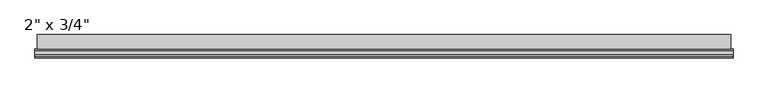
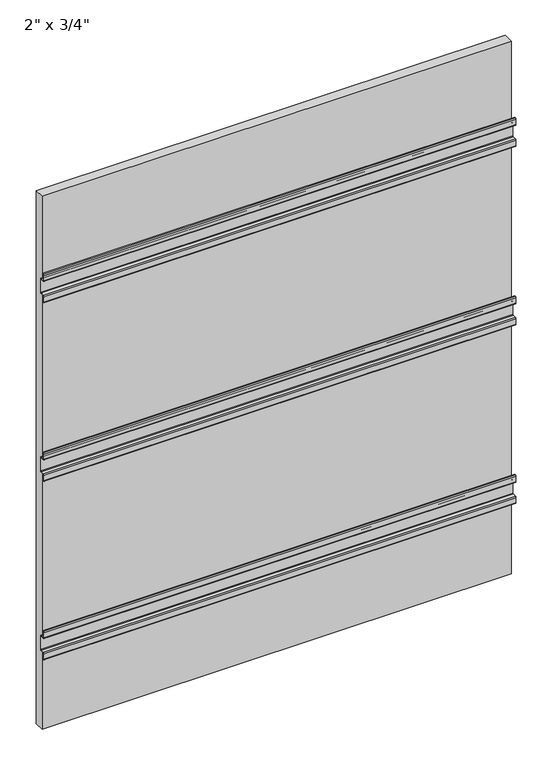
"""IFC4 building model written with IfcOpenShell, lengths in millimetres: plate geometry."""

from ifc_helpers import new_model, si_unit, point, frame, frame_2d, origin, place, context, project, spatial, polyline, circle_curve, trimmed, segment, composite_curve, outline, extrude, source, transform, mapped, element, save


def plate_bb21e225(model_context):
    return source(origin(), model_context, "Body", "SweptSolid", [
        extrude(outline(composite_curve([segment(trimmed(circle_curve(frame_2d((3.175, 1476.375)), 3.175), [point((3.175, 1473.2))], [point((0.0, 1476.375))], False, "CARTESIAN"), True, "CONTINUOUS"), segment(polyline([(0.0, 1476.375), (0.0, 1494.6376)]), True, "CONTINUOUS"), segment(trimmed(circle_curve(frame_2d((3.175, 1494.6376)), 3.175), [point((0.0, 1494.6376))], [point((3.175, 1497.8126))], False, "CARTESIAN"), True, "CONTINUOUS"), segment(polyline([(3.175, 1497.8126), (15.875, 1497.8126)]), True, "CONTINUOUS"), segment(trimmed(circle_curve(frame_2d((15.875, 1499.4001)), 1.5875), [point((15.875, 1497.8126))], [point((17.4625, 1499.4001))], True, "CARTESIAN"), True, "CONTINUOUS"), segment(polyline([(17.4625, 1499.4001), (17.4625, 1543.8501)]), True, "CONTINUOUS"), segment(trimmed(circle_curve(frame_2d((15.875, 1543.8501)), 1.5875), [point((17.4625, 1543.8501))], [point((15.875, 1545.4376))], True, "CARTESIAN"), True, "CONTINUOUS"), segment(polyline([(15.875, 1545.4376), (3.175, 1545.4376)]), True, "CONTINUOUS"), segment(trimmed(circle_curve(frame_2d((3.175, 1548.6126)), 3.175), [point((3.175, 1545.4376))], [point((0.0, 1548.6126))], False, "CARTESIAN"), True, "CONTINUOUS"), segment(polyline([(0.0, 1548.6126), (0.0, 1566.8752)]), True, "CONTINUOUS"), segment(trimmed(circle_curve(frame_2d((3.175, 1566.8752)), 3.175), [point((0.0, 1566.8752))], [point((3.175, 1570.0502))], False, "CARTESIAN"), True, "CONTINUOUS"), segment(polyline([(3.175, 1570.0502), (6.35, 1570.0502), (6.35, 1568.4627), (3.175, 1568.4627)]), True, "CONTINUOUS"), segment(trimmed(circle_curve(frame_2d((3.175, 1566.8752)), 1.5875), [point((3.175, 1568.4627))], [point((1.5875, 1566.8752))], True, "CARTESIAN"), True, "CONTINUOUS"), segment(polyline([(1.5875, 1566.8752), (1.5875, 1548.6126)]), True, "CONTINUOUS"), segment(trimmed(circle_curve(frame_2d((3.175, 1548.6126)), 1.5875), [point((1.5875, 1548.6126))], [point((3.175, 1547.0251))], True, "CARTESIAN"), True, "CONTINUOUS"), segment(polyline([(3.175, 1547.0251), (15.875, 1547.0251)]), True, "CONTINUOUS"), segment(trimmed(circle_curve(frame_2d((15.875, 1543.8501)), 3.175), [point((15.875, 1547.0251))], [point((19.05, 1543.8501))], False, "CARTESIAN"), True, "CONTINUOUS"), segment(polyline([(19.05, 1543.8501), (19.05, 1499.4001)]), True, "CONTINUOUS"), segment(trimmed(circle_curve(frame_2d((15.875, 1499.4001)), 3.175), [point((19.05, 1499.4001))], [point((15.875, 1496.2251))], False, "CARTESIAN"), True, "CONTINUOUS"), segment(polyline([(15.875, 1496.2251), (3.175, 1496.2251)]), True, "CONTINUOUS"), segment(trimmed(circle_curve(frame_2d((3.175, 1494.6376)), 1.5875), [point((3.175, 1496.2251))], [point((1.5875, 1494.6376))], True, "CARTESIAN"), True, "CONTINUOUS"), segment(polyline([(1.5875, 1494.6376), (1.5875, 1476.375)]), True, "CONTINUOUS"), segment(trimmed(circle_curve(frame_2d((3.175, 1476.375)), 1.5875), [point((1.5875, 1476.375))], [point((3.175, 1474.7875))], True, "CARTESIAN"), True, "CONTINUOUS"), segment(polyline([(3.175, 1474.7875), (6.35, 1474.7875), (6.35, 1473.2), (3.175, 1473.2)]), True, "CONTINUOUS")], self_intersect=False)), frame((-762.0000002, 0.0, 0.0), z_axis=(1.0, 0.0, 0.0), x_axis=(0.0, 1.0, 0.0)), (0.0, 0.0, 1.0), 1524.0000003),
        extrude(outline(composite_curve([segment(trimmed(circle_curve(frame_2d((3.175, 866.775)), 3.175), [point((3.175, 863.6))], [point((0.0, 866.775))], False, "CARTESIAN"), True, "CONTINUOUS"), segment(polyline([(0.0, 866.775), (0.0, 885.0376)]), True, "CONTINUOUS"), segment(trimmed(circle_curve(frame_2d((3.175, 885.0376)), 3.175), [point((0.0, 885.0376))], [point((3.175, 888.2126))], False, "CARTESIAN"), True, "CONTINUOUS"), segment(polyline([(3.175, 888.2126), (15.875, 888.2126)]), True, "CONTINUOUS"), segment(trimmed(circle_curve(frame_2d((15.875, 889.8001)), 1.5875), [point((15.875, 888.2126))], [point((17.4625, 889.8001))], True, "CARTESIAN"), True, "CONTINUOUS"), segment(polyline([(17.4625, 889.8001), (17.4625, 934.2501)]), True, "CONTINUOUS"), segment(trimmed(circle_curve(frame_2d((15.875, 934.2501)), 1.5875), [point((17.4625, 934.2501))], [point((15.875, 935.8376))], True, "CARTESIAN"), True, "CONTINUOUS"), segment(polyline([(15.875, 935.8376), (3.175, 935.8376)]), True, "CONTINUOUS"), segment(trimmed(circle_curve(frame_2d((3.175, 939.0126)), 3.175), [point((3.175, 935.8376))], [point((0.0, 939.0126))], False, "CARTESIAN"), True, "CONTINUOUS"), segment(polyline([(0.0, 939.0126), (0.0, 957.2752)]), True, "CONTINUOUS"), segment(trimmed(circle_curve(frame_2d((3.175, 957.2752)), 3.175), [point((0.0, 957.2752))], [point((3.175, 960.4502))], False, "CARTESIAN"), True, "CONTINUOUS"), segment(polyline([(3.175, 960.4502), (6.35, 960.4502), (6.35, 958.8627), (3.175, 958.8627)]), True, "CONTINUOUS"), segment(trimmed(circle_curve(frame_2d((3.175, 957.2752)), 1.5875), [point((3.175, 958.8627))], [point((1.5875, 957.2752))], True, "CARTESIAN"), True, "CONTINUOUS"), segment(polyline([(1.5875, 957.2752), (1.5875, 939.0126)]), True, "CONTINUOUS"), segment(trimmed(circle_curve(frame_2d((3.175, 939.0126)), 1.5875), [point((1.5875, 939.0126))], [point((3.175, 937.4251))], True, "CARTESIAN"), True, "CONTINUOUS"), segment(polyline([(3.175, 937.4251), (15.875, 937.4251)]), True, "CONTINUOUS"), segment(trimmed(circle_curve(frame_2d((15.875, 934.2501)), 3.175), [point((15.875, 937.4251))], [point((19.05, 934.2501))], False, "CARTESIAN"), True, "CONTINUOUS"), segment(polyline([(19.05, 934.2501), (19.05, 889.8001)]), True, "CONTINUOUS"), segment(trimmed(circle_curve(frame_2d((15.875, 889.8001)), 3.175), [point((19.05, 889.8001))], [point((15.875, 886.6251))], False, "CARTESIAN"), True, "CONTINUOUS"), segment(polyline([(15.875, 886.6251), (3.175, 886.6251)]), True, "CONTINUOUS"), segment(trimmed(circle_curve(frame_2d((3.175, 885.0376)), 1.5875), [point((3.175, 886.6251))], [point((1.5875, 885.0376))], True, "CARTESIAN"), True, "CONTINUOUS"), segment(polyline([(1.5875, 885.0376), (1.5875, 866.775)]), True, "CONTINUOUS"), segment(trimmed(circle_curve(frame_2d((3.175, 866.775)), 1.5875), [point((1.5875, 866.775))], [point((3.175, 865.1875))], True, "CARTESIAN"), True, "CONTINUOUS"), segment(polyline([(3.175, 865.1875), (6.35, 865.1875), (6.35, 863.6), (3.175, 863.6)]), True, "CONTINUOUS")], self_intersect=False)), frame((-762.0000002, 0.0, 0.0), z_axis=(1.0, 0.0, 0.0), x_axis=(0.0, 1.0, 0.0)), (0.0, 0.0, 1.0), 1524.0000003),
        extrude(outline(composite_curve([segment(trimmed(circle_curve(frame_2d((3.175, 257.175)), 3.175), [point((3.175, 254.0))], [point((0.0, 257.175))], False, "CARTESIAN"), True, "CONTINUOUS"), segment(polyline([(0.0, 257.175), (0.0, 275.4376)]), True, "CONTINUOUS"), segment(trimmed(circle_curve(frame_2d((3.175, 275.4376)), 3.175), [point((0.0, 275.4376))], [point((3.175, 278.6126))], False, "CARTESIAN"), True, "CONTINUOUS"), segment(polyline([(3.175, 278.6126), (15.875, 278.6126)]), True, "CONTINUOUS"), segment(trimmed(circle_curve(frame_2d((15.875, 280.2001)), 1.5875), [point((15.875, 278.6126))], [point((17.4625, 280.2001))], True, "CARTESIAN"), True, "CONTINUOUS"), segment(polyline([(17.4625, 280.2001), (17.4625, 324.6501)]), True, "CONTINUOUS"), segment(trimmed(circle_curve(frame_2d((15.875, 324.6501)), 1.5875), [point((17.4625, 324.6501))], [point((15.875, 326.2376))], True, "CARTESIAN"), True, "CONTINUOUS"), segment(polyline([(15.875, 326.2376), (3.175, 326.2376)]), True, "CONTINUOUS"), segment(trimmed(circle_curve(frame_2d((3.175, 329.4126)), 3.175), [point((3.175, 326.2376))], [point((0.0, 329.4126))], False, "CARTESIAN"), True, "CONTINUOUS"), segment(polyline([(0.0, 329.4126), (0.0, 347.6752)]), True, "CONTINUOUS"), segment(trimmed(circle_curve(frame_2d((3.175, 347.6752)), 3.175), [point((0.0, 347.6752))], [point((3.175, 350.8502))], False, "CARTESIAN"), True, "CONTINUOUS"), segment(polyline([(3.175, 350.8502), (6.35, 350.8502), (6.35, 349.2627), (3.175, 349.2627)]), True, "CONTINUOUS"), segment(trimmed(circle_curve(frame_2d((3.175, 347.6752)), 1.5875), [point((3.175, 349.2627))], [point((1.5875, 347.6752))], True, "CARTESIAN"), True, "CONTINUOUS"), segment(polyline([(1.5875, 347.6752), (1.5875, 329.4126)]), True, "CONTINUOUS"), segment(trimmed(circle_curve(frame_2d((3.175, 329.4126)), 1.5875), [point((1.5875, 329.4126))], [point((3.175, 327.8251))], True, "CARTESIAN"), True, "CONTINUOUS"), segment(polyline([(3.175, 327.8251), (15.875, 327.8251)]), True, "CONTINUOUS"), segment(trimmed(circle_curve(frame_2d((15.875, 324.6501)), 3.175), [point((15.875, 327.8251))], [point((19.05, 324.6501))], False, "CARTESIAN"), True, "CONTINUOUS"), segment(polyline([(19.05, 324.6501), (19.05, 280.2001)]), True, "CONTINUOUS"), segment(trimmed(circle_curve(frame_2d((15.875, 280.2001)), 3.175), [point((19.05, 280.2001))], [point((15.875, 277.0251))], False, "CARTESIAN"), True, "CONTINUOUS"), segment(polyline([(15.875, 277.0251), (3.175, 277.0251)]), True, "CONTINUOUS"), segment(trimmed(circle_curve(frame_2d((3.175, 275.4376)), 1.5875), [point((3.175, 277.0251))], [point((1.5875, 275.4376))], True, "CARTESIAN"), True, "CONTINUOUS"), segment(polyline([(1.5875, 275.4376), (1.5875, 257.175)]), True, "CONTINUOUS"), segment(trimmed(circle_curve(frame_2d((3.175, 257.175)), 1.5875), [point((1.5875, 257.175))], [point((3.175, 255.5875))], True, "CARTESIAN"), True, "CONTINUOUS"), segment(polyline([(3.175, 255.5875), (6.35, 255.5875), (6.35, 254.0), (3.175, 254.0)]), True, "CONTINUOUS")], self_intersect=False)), frame((-762.0000002, 0.0, 0.0), z_axis=(1.0, 0.0, 0.0), x_axis=(0.0, 1.0, 0.0)), (0.0, 0.0, 1.0), 1524.0000003),
        extrude(outline(polyline([(757.2375002, 19.05), (-757.2375002, 19.05), (-757.2375002, 50.8), (757.2375002, 50.8), (757.2375002, 19.05)])), frame((0.0, 0.0, 4.7625), z_axis=(0.0, 0.0, 1.0), x_axis=(1.0, 0.0, 0.0)), (0.0, 0.0, 1.0), 1819.275),
    ])


if __name__ == "__main__":
    model = new_model("IFC4")
    model_context = context("Model", 3, world=origin())
    ifc_project = project(units=[si_unit("LENGTHUNIT", "METRE", prefix="MILLI")], contexts=[model_context])
    site = spatial("IfcSite", under=ifc_project)
    building = spatial("IfcBuilding", under=site)
    placement = place(None, origin())
    plate_shape = plate_bb21e225(model_context)
    element("IfcPlate", 1, ObjectType="KWS_Generic-Panel_w_PanelRail-H : 2\" x 3/4\"", at=placement, inside=building, context=model_context, shape_type="MappedRepresentation", body=[
        mapped(plate_shape, transform((0.0, 0.0, 0.0), x_axis=(1.0, 0.0, 0.0), y_axis=(0.0, 1.0, 0.0), z_axis=(0.0, 0.0, 1.0))),
    ])
    save(model, "model.ifc")
